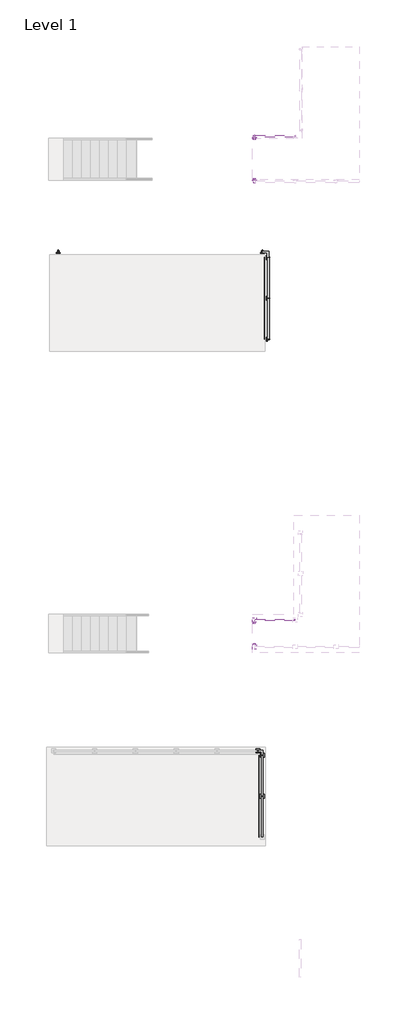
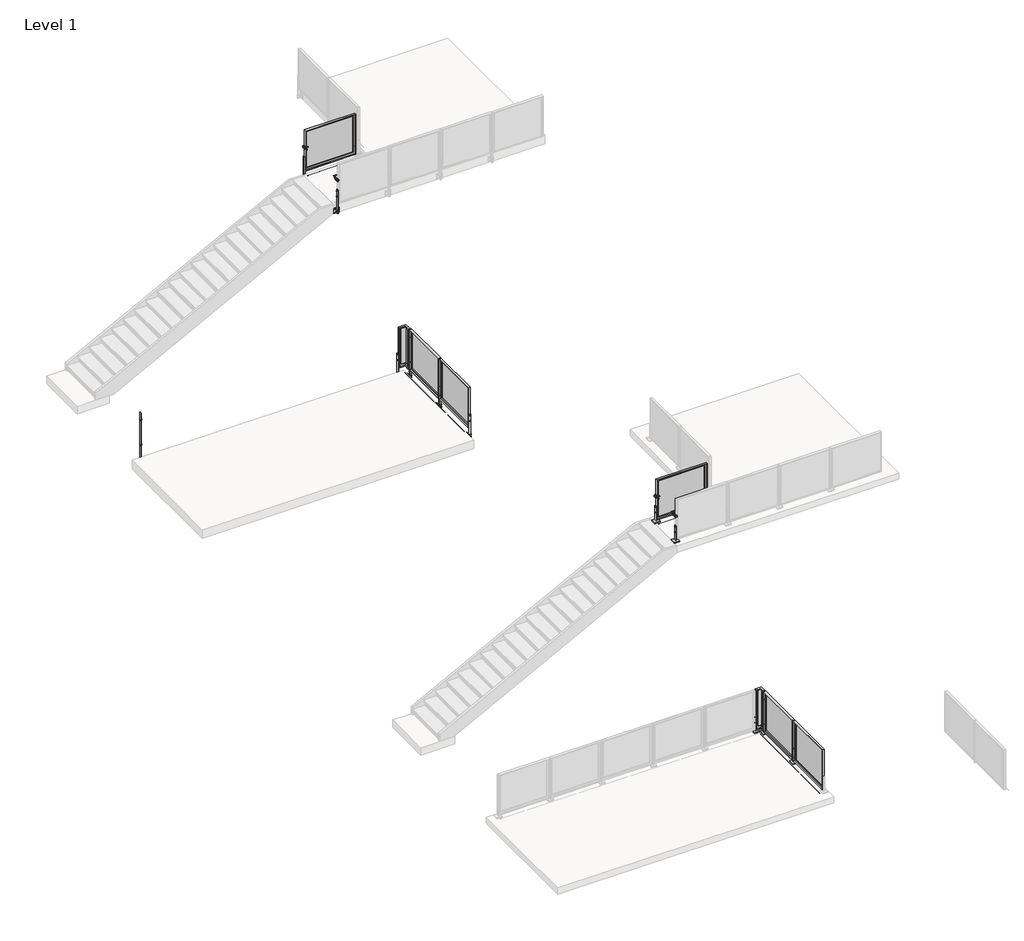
# One storey, part 5 of 37: 12 proxies, 6 railings.
"""IFC4 building model written with IfcOpenShell, lengths in millimetres."""

from ifc_helpers import new_model, si_unit, point, frame, frame_2d, origin, origin_with_axes, place, context, project, spatial, polyline, circle_curve, trimmed, segment, composite_curve, outline, extrude, faceted_brep, transform, mapped, element, save
from ifc_brep_helpers import plane_surface, cylinder_surface, advanced_brep
from components import baluster_end_post_viva_frame_top_mount_efd1a991, baluster_end_post_viva_frame_top_mount_8495f7c5, baluster_end_post_viva_frame_top_mount_welded_fascia_mount_f3869cb3, baluster_end_post_viva_frame_top_mount_welded_fascia_mount_7cfda481, baluster_end_post_viva_frame_top_mount_stairs_2918d103, baluster_end_post_viva_frame_top_mount_stairs_welded_fascia_58373508, baluster_corner_panel_viva_frame_inside_standard_051fbde0, baluster_corner_panel_viva_frame_inside_standard_6796b24e

model = new_model("IFC4")

# Units and contexts
model_context = context("Model", 3, world=origin())
ifc_project = project(units=[si_unit("LENGTHUNIT", "METRE", prefix="MILLI")], contexts=[model_context])

# Site, building, storey
site = spatial("IfcSite", under=ifc_project)
building = spatial("IfcBuilding", under=site)
storey = spatial("IfcBuildingStorey", under=building, Name="Level 1", Elevation=0.0)

# Proxies
placement = place(None, origin())
baluster_end_post_viva_frame_top_mount_shape = baluster_end_post_viva_frame_top_mount_efd1a991(model_context)
element("IfcBuildingElementProxy", 1, Name="Baluster-End-Post-VIVA-FRAME-Top Mount : ANCHORED TO CONCRETE_TOP MOUNT FOLD_STRAIGHT", ObjectType="Baluster-End-Post-VIVA-FRAME-Top Mount : ANCHORED TO CONCRETE_TOP MOUNT FOLD_STRAIGHT", at=placement, inside=storey, context=model_context, shape_type="MappedRepresentation", body=[
    mapped(baluster_end_post_viva_frame_top_mount_shape, transform((-32907.4137821, -21750.6777859, -0.508), x_axis=(-1.0, 0.0, 0.0), y_axis=(0.0, -1.0, 0.0), z_axis=(0.0, 0.0, 1.0))),
])
element("IfcBuildingElementProxy", 2, Name="Baluster-End-Post-VIVA-FRAME-Top Mount : ANCHORED TO CONCRETE_TOP MOUNT FOLD_STRAIGHT", ObjectType="Baluster-End-Post-VIVA-FRAME-Top Mount : ANCHORED TO CONCRETE_TOP MOUNT FOLD_STRAIGHT", at=placement, inside=storey, context=model_context, shape_type="MappedRepresentation", body=[
    mapped(baluster_end_post_viva_frame_top_mount_shape, transform((-33016.8813244, -17681.7668664, 3047.492), x_axis=(-1.0, 0.0, 0.0), y_axis=(0.0, -1.0, 0.0), z_axis=(0.0, 0.0, 1.0))),
])
baluster_end_post_viva_frame_top_mount_2_shape = baluster_end_post_viva_frame_top_mount_8495f7c5(model_context)
element("IfcBuildingElementProxy", 3, Name="Baluster-End-Post-VIVA-FRAME-Top Mount : ANCHORED TO CONCRETE_TOP MOUNT FOLD_STRAIGHT", ObjectType="Baluster-End-Post-VIVA-FRAME-Top Mount : ANCHORED TO CONCRETE_TOP MOUNT FOLD_STRAIGHT", at=placement, inside=storey, context=model_context, shape_type="MappedRepresentation", body=[
    mapped(baluster_end_post_viva_frame_top_mount_2_shape, transform((-32869.9472593, -21788.2049932, -0.508), x_axis=(0.0, 1.0, 0.0), y_axis=(-1.0, 0.0, 0.0), z_axis=(0.0, 0.0, 1.0))),
])
baluster_end_post_viva_frame_top_mount_welded_fascia_mount_shape = baluster_end_post_viva_frame_top_mount_welded_fascia_mount_f3869cb3(model_context)
element("IfcBuildingElementProxy", 4, Name="Baluster-End-Post-VIVA-FRAME-Top Mount : WELDED Fascia MOUNT FOLD_STRAIGHT", ObjectType="Baluster-End-Post-VIVA-FRAME-Top Mount : WELDED Fascia MOUNT FOLD_STRAIGHT", at=placement, inside=storey, context=model_context, shape_type="MappedRepresentation", body=[
    mapped(baluster_end_post_viva_frame_top_mount_welded_fascia_mount_shape, transform((-32705.8487034, -8860.5967002, -0.508), x_axis=(0.0, 1.0, 0.0), y_axis=(-1.0, 0.0, 0.0), z_axis=(0.0, 0.0, 1.0))),
])
element("IfcBuildingElementProxy", 5, Name="Baluster-End-Post-VIVA-FRAME-Top Mount : WELDED Fascia MOUNT FOLD_STRAIGHT", ObjectType="Baluster-End-Post-VIVA-FRAME-Top Mount : WELDED Fascia MOUNT FOLD_STRAIGHT", at=placement, inside=storey, context=model_context, shape_type="MappedRepresentation", body=[
    mapped(baluster_end_post_viva_frame_top_mount_welded_fascia_mount_shape, transform((-32770.1701703, -6257.9599803, -0.508), x_axis=(-1.0, 0.0, 0.0), y_axis=(0.0, -1.0, 0.0), z_axis=(0.0, 0.0, 1.0))),
])
element("IfcBuildingElementProxy", 6, Name="Baluster-End-Post-VIVA-FRAME-Top Mount : WELDED Fascia MOUNT FOLD_STRAIGHT", ObjectType="Baluster-End-Post-VIVA-FRAME-Top Mount : WELDED Fascia MOUNT FOLD_STRAIGHT", at=placement, inside=storey, context=model_context, shape_type="MappedRepresentation", body=[
    mapped(baluster_end_post_viva_frame_top_mount_welded_fascia_mount_shape, transform((-33016.1434339, -3841.0034112, 3047.492), x_axis=(1.0, 0.0, 0.0), y_axis=(0.0, 1.0, 0.0), z_axis=(0.0, 0.0, 1.0))),
])
baluster_end_post_viva_frame_top_mount_welded_fascia_mount_2_shape = baluster_end_post_viva_frame_top_mount_welded_fascia_mount_7cfda481(model_context)
element("IfcBuildingElementProxy", 7, Name="Baluster-End-Post-VIVA-FRAME-Top Mount : WELDED Fascia MOUNT FOLD_STRAIGHT", ObjectType="Baluster-End-Post-VIVA-FRAME-Top Mount : WELDED Fascia MOUNT FOLD_STRAIGHT", at=placement, inside=storey, context=model_context, shape_type="MappedRepresentation", body=[
    mapped(baluster_end_post_viva_frame_top_mount_welded_fascia_mount_2_shape, transform((-32705.8487034, -6320.5967002, -0.508), x_axis=(0.0, 1.0, 0.0), y_axis=(-1.0, 0.0, 0.0), z_axis=(0.0, 0.0, 1.0))),
])
element("IfcBuildingElementProxy", 8, Name="Baluster-End-Post-VIVA-FRAME-Top Mount : WELDED Fascia MOUNT FOLD_STRAIGHT", ObjectType="Baluster-End-Post-VIVA-FRAME-Top Mount : WELDED Fascia MOUNT FOLD_STRAIGHT", at=placement, inside=storey, context=model_context, shape_type="MappedRepresentation", body=[
    mapped(baluster_end_post_viva_frame_top_mount_welded_fascia_mount_2_shape, transform((-39120.1701703, -6257.9599803, -0.508), x_axis=(-1.0, 0.0, 0.0), y_axis=(0.0, -1.0, 0.0), z_axis=(0.0, 0.0, 1.0))),
])
baluster_end_post_viva_frame_top_mount_stairs_shape = baluster_end_post_viva_frame_top_mount_stairs_2918d103(model_context)
element("IfcBuildingElementProxy", 9, Name="Baluster-End-Post-VIVA-FRAME-Top Mount Stairs : ANCHORED TO CONCRETE_TOP MOUNT FRAME_STAIR", ObjectType="Baluster-End-Post-VIVA-FRAME-Top Mount Stairs : ANCHORED TO CONCRETE_TOP MOUNT FRAME_STAIR", at=placement, inside=storey, context=model_context, shape_type="MappedRepresentation", body=[
    mapped(baluster_end_post_viva_frame_top_mount_stairs_shape, transform((-33016.8813244, -18322.9554387, 3784.092), x_axis=(1.0, 0.0, 0.0), y_axis=(0.0, 1.0, 0.0), z_axis=(0.0, 0.0, 1.0))),
])
element("IfcBuildingElementProxy", 10, Name="Baluster-End-Post-VIVA-FRAME-Top Mount Stairs : ANCHORED TO CONCRETE_TOP MOUNT FRAME_STAIR", ObjectType="Baluster-End-Post-VIVA-FRAME-Top Mount Stairs : ANCHORED TO CONCRETE_TOP MOUNT FRAME_STAIR", at=placement, inside=storey, context=model_context, shape_type="MappedRepresentation", body=[
    mapped(baluster_end_post_viva_frame_top_mount_stairs_shape, transform((-33016.8813244, -17681.7554387, 3784.092), x_axis=(-1.0, 0.0, 0.0), y_axis=(0.0, -1.0, 0.0), z_axis=(0.0, 0.0, 1.0))),
])
baluster_end_post_viva_frame_top_mount_stairs_welded_fascia_shape = baluster_end_post_viva_frame_top_mount_stairs_welded_fascia_58373508(model_context)
element("IfcBuildingElementProxy", 11, Name="Baluster-End-Post-VIVA-FRAME-Top Mount Stairs : WELDED Fascia MOUNT FRAME_STAIR", ObjectType="Baluster-End-Post-VIVA-FRAME-Top Mount Stairs : WELDED Fascia MOUNT FRAME_STAIR", at=placement, inside=storey, context=model_context, shape_type="MappedRepresentation", body=[
    mapped(baluster_end_post_viva_frame_top_mount_stairs_welded_fascia_shape, transform((-33016.1434339, -3840.9780112, 3784.092), x_axis=(1.0, 0.0, 0.0), y_axis=(0.0, 1.0, 0.0), z_axis=(0.0, 0.0, 1.0))),
])
element("IfcBuildingElementProxy", 12, Name="Baluster-End-Post-VIVA-FRAME-Top Mount Stairs : WELDED Fascia MOUNT FRAME_STAIR", ObjectType="Baluster-End-Post-VIVA-FRAME-Top Mount Stairs : WELDED Fascia MOUNT FRAME_STAIR", at=placement, inside=storey, context=model_context, shape_type="MappedRepresentation", body=[
    mapped(baluster_end_post_viva_frame_top_mount_stairs_welded_fascia_shape, transform((-33016.1434339, -2683.2944112, 3784.092), x_axis=(-1.0, 0.0, 0.0), y_axis=(0.0, -1.0, 0.0), z_axis=(0.0, 0.0, 1.0))),
])

# Railings
baluster_corner_panel_viva_frame_inside_standard_shape = baluster_corner_panel_viva_frame_inside_standard_051fbde0(model_context)
element("IfcRailing", 13, ObjectType="Baluster-Corner-Panel-VIVA-FRAME : Inside_Standard", at=placement, inside=storey, context=model_context, shape_type="MappedRepresentation", body=[
    mapped(baluster_corner_panel_viva_frame_inside_standard_shape, transform((-32570.6414242, -6127.3771803, -25.654), x_axis=(-1.0, 0.0, 0.0), y_axis=(0.0, -1.0, 0.0), z_axis=(0.0, 0.0, 1.0))),
])
baluster_corner_panel_viva_frame_inside_standard_2_shape = baluster_corner_panel_viva_frame_inside_standard_6796b24e(model_context)
element("IfcRailing", 14, ObjectType="Baluster-Corner-Panel-VIVA-FRAME : Inside_Standard", at=placement, inside=storey, context=model_context, shape_type="MappedRepresentation", body=[
    mapped(baluster_corner_panel_viva_frame_inside_standard_2_shape, transform((-32747.1368593, -21627.8673859, -25.654), x_axis=(-1.0, 0.0, 0.0), y_axis=(0.0, -1.0, 0.0), z_axis=(0.0, 0.0, 1.0))),
])
element("IfcRailing", 15, ObjectType="Metal-Panel-VIVA-FRAME-Fascia-Straight", at=placement, inside=storey, context=model_context, shape_type="SolidModel", body=[
    extrude(outline(composite_curve([segment(trimmed(circle_curve(frame_2d((-0.254, -32705.8487034)), 0.254), [point((-0.254, -32706.1027034))], [point((-0.254, -32705.5947034))], False, "CARTESIAN"), True, "CONTINUOUS"), segment(trimmed(circle_curve(frame_2d((-0.254, -32705.8487034)), 0.254), [point((-0.254, -32705.5947034))], [point((-0.254, -32706.1027034))], False, "CARTESIAN"), True, "CONTINUOUS")], self_intersect=False)), frame((0.0, -8860.5967002, 0.0), z_axis=(0.0, 1.0, 0.0), x_axis=(0.0, 0.0, 1.0)), (0.0, 0.0, 1.0), 2540.0),
    extrude(outline(composite_curve([segment(trimmed(circle_curve(frame_2d((-0.254, -32705.8487034)), 0.254), [point((-0.254, -32706.1027034))], [point((-0.254, -32705.5947034))], False, "CARTESIAN"), True, "CONTINUOUS"), segment(trimmed(circle_curve(frame_2d((-0.254, -32705.8487034)), 0.254), [point((-0.254, -32705.5947034))], [point((-0.254, -32706.1027034))], False, "CARTESIAN"), True, "CONTINUOUS")], self_intersect=False)), frame((0.0, -8860.5967002, 0.0), z_axis=(0.0, 1.0, 0.0), x_axis=(0.0, 0.0, 1.0)), (0.0, 0.0, 1.0), 2540.0),
    extrude(outline(polyline([(-32551.3899034, -7631.4231571), (-32551.3899034, -8819.7702432), (-32554.3899034, -8819.7702432), (-32554.3899034, -7631.4231571), (-32551.3899034, -7631.4231571)])), frame((0.0, 0.0, 76.1959569), z_axis=(0.0, 0.0, 1.0), x_axis=(1.0, 0.0, 0.0)), (0.0, 0.0, 1.0), 990.5826861),
    faceted_brep([(-32551.3899034, -7606.0231571, 1092.1786431), (-32551.3899034, -8845.1702432, 1092.1786431), (-32551.3899034, -8845.1702432, 50.7959569), (-32551.3899034, -7606.0231571, 50.7959569), (-32551.3899034, -7631.4231571, 1066.7786431), (-32551.3899034, -7631.4231571, 76.1959569), (-32551.3899034, -8819.7702432, 76.1959569), (-32551.3899034, -8819.7702432, 1066.7786431), (-32554.3899034, -7631.4231571, 76.1959569), (-32554.3899034, -8819.7702432, 76.1959569), (-32554.3899034, -8819.7702432, 1066.7786431), (-32554.3899034, -7631.4231571, 1066.7786431), (-32605.1899034, -7612.0175571, 56.7903569), (-32605.1899034, -8839.1758432, 56.7903569), (-32574.3797034, -8839.1758432, 56.7903569), (-32574.3797034, -7612.0175571, 56.7903569), (-32605.1899034, -8839.1758432, 1086.1842431), (-32574.3797034, -8839.1758432, 1086.1842431), (-32574.3797034, -7612.0175571, 1086.1842431), (-32605.1899034, -7612.0175571, 1086.1842431), (-32605.1899034, -8845.1702432, 50.7959569), (-32605.1899034, -8845.1702432, 1092.1786431), (-32605.1899034, -7606.0231571, 1092.1786431), (-32605.1899034, -7606.0231571, 50.7959569), (-32554.3899034, -7656.8231571, 1041.3786431), (-32554.3899034, -7656.8231571, 101.5959569), (-32554.3899034, -8794.3702432, 101.5959569), (-32554.3899034, -8794.3702432, 1041.3786431), (-32574.3797034, -8794.3702432, 101.5959569), (-32574.3797034, -7656.8231571, 101.5959569), (-32574.3797034, -7656.8231571, 1041.3786431), (-32574.3797034, -8794.3702432, 1041.3786431)], [[[0, 1, 2, 3], [4, 5, 6, 7]], [[5, 8, 9, 6]], [[6, 9, 10, 7]], [[7, 10, 11, 4]], [[4, 11, 8, 5]], [[12, 13, 14, 15]], [[13, 16, 17, 14]], [[15, 18, 19, 12]], [[20, 21, 22, 23], [12, 19, 16, 13]], [[23, 22, 0, 3]], [[23, 3, 2, 20]], [[2, 1, 21, 20]], [[22, 21, 1, 0]], [[11, 10, 9, 8], [24, 25, 26, 27]], [[14, 17, 18, 15], [28, 29, 30, 31]], [[18, 17, 16, 19]], [[27, 31, 30, 24]], [[26, 28, 31, 27]], [[25, 29, 28, 26]], [[24, 30, 29, 25]]]),
    extrude(outline(composite_curve([segment(trimmed(circle_curve(frame_2d((-32556.9649967, -7590.5967002)), 22.225), [point((-32556.9649967, -7568.3717002))], [point((-32556.9649967, -7612.8217002))], False, "CARTESIAN"), True, "CONTINUOUS"), segment(polyline([(-32556.9649967, -7612.8217002), (-32614.8659034, -7612.8217002), (-32614.8659034, -7568.3717002), (-32556.9649967, -7568.3717002)]), True, "CONTINUOUS")], self_intersect=False)), frame((0.0, 0.0, -188.9252), z_axis=(0.0, 0.0, 1.0), x_axis=(1.0, 0.0, 0.0)), (0.0, 0.0, 1.0), 12.7),
    extrude(outline(composite_curve([segment(polyline([(-32614.8659034, -7612.8217002), (-32614.8659034, -7568.3717002), (-32556.9649967, -7568.3717002)]), True, "CONTINUOUS"), segment(trimmed(circle_curve(frame_2d((-32556.9649967, -7590.5967002)), 22.225), [point((-32556.9649967, -7568.3717002))], [point((-32556.9649967, -7612.8217002))], False, "CARTESIAN"), True, "CONTINUOUS"), segment(polyline([(-32556.9649967, -7612.8217002), (-32614.8659034, -7612.8217002)]), True, "CONTINUOUS")], self_intersect=False)), frame((0.0, 0.0, -127.0), z_axis=(0.0, 0.0, 1.0), x_axis=(1.0, 0.0, 0.0)), (0.0, 0.0, 1.0), 12.7),
    extrude(outline(composite_curve([segment(trimmed(circle_curve(frame_2d((-7635.041632, -106.3498)), 4.7752), [point((-7639.816832, -106.3498))], [point((-7630.266432, -106.3498))], False, "CARTESIAN"), True, "CONTINUOUS"), segment(trimmed(circle_curve(frame_2d((-7635.041632, -106.3498)), 4.7752), [point((-7630.266432, -106.3498))], [point((-7639.816832, -106.3498))], False, "CARTESIAN"), True, "CONTINUOUS")], self_intersect=False)), frame((-32624.3909034, 0.0, 0.0), z_axis=(1.0, 0.0, 0.0), x_axis=(0.0, 1.0, 0.0)), (0.0, 0.0, 1.0), 14.3002),
    extrude(outline(composite_curve([segment(trimmed(circle_curve(frame_2d((-7546.1517683, -106.3498)), 4.7752), [point((-7550.9269683, -106.3498))], [point((-7541.3765683, -106.3498))], False, "CARTESIAN"), True, "CONTINUOUS"), segment(trimmed(circle_curve(frame_2d((-7546.1517683, -106.3498)), 4.7752), [point((-7541.3765683, -106.3498))], [point((-7550.9269683, -106.3498))], False, "CARTESIAN"), True, "CONTINUOUS")], self_intersect=False)), frame((-32624.3909034, 0.0, 0.0), z_axis=(1.0, 0.0, 0.0), x_axis=(0.0, 1.0, 0.0)), (0.0, 0.0, 1.0), 14.3002),
    extrude(outline(composite_curve([segment(trimmed(circle_curve(frame_2d((-7546.1517683, -195.2498)), 4.7752), [point((-7550.9269683, -195.2498))], [point((-7541.3765683, -195.2498))], False, "CARTESIAN"), True, "CONTINUOUS"), segment(trimmed(circle_curve(frame_2d((-7546.1517683, -195.2498)), 4.7752), [point((-7541.3765683, -195.2498))], [point((-7550.9269683, -195.2498))], False, "CARTESIAN"), True, "CONTINUOUS")], self_intersect=False)), frame((-32624.3909034, 0.0, 0.0), z_axis=(1.0, 0.0, 0.0), x_axis=(0.0, 1.0, 0.0)), (0.0, 0.0, 1.0), 14.3002),
    extrude(outline(composite_curve([segment(trimmed(circle_curve(frame_2d((-7635.041632, -195.2498)), 4.7752), [point((-7639.816832, -195.2498))], [point((-7630.266432, -195.2498))], False, "CARTESIAN"), True, "CONTINUOUS"), segment(trimmed(circle_curve(frame_2d((-7635.041632, -195.2498)), 4.7752), [point((-7630.266432, -195.2498))], [point((-7639.816832, -195.2498))], False, "CARTESIAN"), True, "CONTINUOUS")], self_intersect=False)), frame((-32624.3909034, 0.0, 0.0), z_axis=(1.0, 0.0, 0.0), x_axis=(0.0, 1.0, 0.0)), (0.0, 0.0, 1.0), 14.3002),
    extrude(outline(polyline([(-32624.3909034, -7654.0947217), (-32633.9159034, -7654.0947217), (-32633.9159034, -7527.0986786), (-32624.3909034, -7527.0986786), (-32624.3909034, -7654.0947217)])), frame((0.0, 0.0, -214.2998), z_axis=(0.0, 0.0, 1.0), x_axis=(1.0, 0.0, 0.0)), (0.0, 0.0, 1.0), 127.0),
    extrude(outline(polyline([(-32614.8659034, -7654.0947217), (-32624.3909034, -7654.0947217), (-32624.3909034, -7527.0986786), (-32614.8659034, -7527.0986786), (-32614.8659034, -7654.0947217)])), frame((0.0, 0.0, -214.2998), z_axis=(0.0, 0.0, 1.0), x_axis=(1.0, 0.0, 0.0)), (0.0, 0.0, 1.0), 127.0),
    advanced_brep(
    [(-32576.7659034, -7564.4093002, 130.1496), (-32576.7659034, -7564.4093002, 139.7), (-32576.7659034, -7564.4093002, 149.2504), (-32576.7659034, -7569.1845002, 130.1496), (-32576.7659034, -7569.1845002, 149.2504), (-32576.7659034, -7569.1845002, 134.9248), (-32576.7659034, -7569.1845002, 144.4752), (-32576.7659034, -7612.0089002, 134.9248), (-32576.7659034, -7612.0089002, 144.4752), (-32576.7659034, -7612.0089002, 130.1496), (-32576.7659034, -7612.0089002, 149.2504), (-32576.7659034, -7616.7841002, 130.1496), (-32576.7659034, -7616.7841002, 149.2504), (-32576.7659034, -7616.7841002, 139.7)],
    [
        (0, 1),
        (1, 2),
        (2, 0, circle_curve(frame((-32576.7659034, -7564.4093002, 139.7), z_axis=(0.0, 1.0, 0.0), x_axis=(0.0, 0.0, 1.0)), 9.5504)),
        (0, 2, circle_curve(frame((-32576.7659034, -7564.4093002, 139.7), z_axis=(0.0, 1.0, 0.0), x_axis=(0.0, 0.0, 1.0)), 9.5504)),
        (3, 0),
        (2, 4),
        (4, 3, circle_curve(frame((-32576.7659034, -7569.1845002, 139.7), z_axis=(0.0, 1.0, 0.0), x_axis=(0.0, 0.0, 1.0)), 9.5504)),
        (3, 4, circle_curve(frame((-32576.7659034, -7569.1845002, 139.7), z_axis=(0.0, 1.0, 0.0), x_axis=(0.0, 0.0, 1.0)), 9.5504)),
        (5, 3),
        (4, 6),
        (6, 5, circle_curve(frame((-32576.7659034, -7569.1845002, 139.7), z_axis=(0.0, 1.0, 0.0), x_axis=(0.0, 0.0, 1.0)), 4.7752)),
        (5, 6, circle_curve(frame((-32576.7659034, -7569.1845002, 139.7), z_axis=(0.0, 1.0, 0.0), x_axis=(0.0, 0.0, 1.0)), 4.7752)),
        (7, 5),
        (6, 8),
        (8, 7, circle_curve(frame((-32576.7659034, -7612.0089002, 139.7), z_axis=(0.0, 1.0, 0.0), x_axis=(0.0, 0.0, 1.0)), 4.7752)),
        (7, 8, circle_curve(frame((-32576.7659034, -7612.0089002, 139.7), z_axis=(0.0, 1.0, 0.0), x_axis=(0.0, 0.0, 1.0)), 4.7752)),
        (9, 7),
        (8, 10),
        (10, 9, circle_curve(frame((-32576.7659034, -7612.0089002, 139.7), z_axis=(0.0, 1.0, 0.0), x_axis=(0.0, 0.0, 1.0)), 9.5504)),
        (9, 10, circle_curve(frame((-32576.7659034, -7612.0089002, 139.7), z_axis=(0.0, 1.0, 0.0), x_axis=(0.0, 0.0, 1.0)), 9.5504)),
        (11, 9),
        (10, 12),
        (12, 11, circle_curve(frame((-32576.7659034, -7616.7841002, 139.7), z_axis=(0.0, 1.0, 0.0), x_axis=(0.0, 0.0, 1.0)), 9.5504)),
        (11, 12, circle_curve(frame((-32576.7659034, -7616.7841002, 139.7), z_axis=(0.0, 1.0, 0.0), x_axis=(0.0, 0.0, 1.0)), 9.5504)),
        (13, 11),
        (12, 13),
    ],
    [
        plane_surface(frame((-32576.7659034, -7564.4093002, 139.7), z_axis=(0.0, 1.0, 0.0), x_axis=(0.0, 0.0, 1.0))),
        cylinder_surface(frame((-32576.7659034, -4172.828943, 139.7), z_axis=(0.0, -1.0, 0.0), x_axis=(0.0, 0.0, 1.0)), 9.5504),
        plane_surface(frame((-32576.7659034, -7569.1845002, 139.7), z_axis=(0.0, -1.0, 0.0), x_axis=(0.0, 0.0, 1.0))),
        cylinder_surface(frame((-32576.7659034, -4172.828943, 139.7), z_axis=(0.0, -1.0, 0.0), x_axis=(0.0, 0.0, 1.0)), 4.7752),
        plane_surface(frame((-32576.7659034, -7612.0089002, 139.7), z_axis=(0.0, 1.0, 0.0), x_axis=(0.0, 0.0, 1.0))),
        plane_surface(frame((-32576.7659034, -7616.7841002, 139.7), z_axis=(0.0, -1.0, 0.0), x_axis=(0.0, 0.0, 1.0))),
    ],
    [
        (0, [[1, 2, 3]]),
        (0, [[-2, -1, 4]]),
        (1, [[5, -3, 6, 7]]),
        (1, [[-6, -4, -5, 8]]),
        (2, [[9, -7, 10, 11]]),
        (2, [[-10, -8, -9, 12]]),
        (3, [[13, -11, 14, 15]]),
        (3, [[-14, -12, -13, 16]]),
        (4, [[17, -15, 18, 19]]),
        (4, [[-18, -16, -17, 20]]),
        (1, [[21, -19, 22, 23]]),
        (1, [[-22, -20, -21, 24]]),
        (5, [[25, -23, 26]]),
        (5, [[-26, -24, -25]]),
    ],
),
    advanced_brep(
    [(-32576.7659034, -7564.4093002, 371.4496), (-32576.7659034, -7564.4093002, 381.0), (-32576.7659034, -7564.4093002, 390.5504), (-32576.7659034, -7569.1845002, 371.4496), (-32576.7659034, -7569.1845002, 390.5504), (-32576.7659034, -7569.1845002, 376.2248), (-32576.7659034, -7569.1845002, 385.7752), (-32576.7659034, -7612.0089002, 376.2248), (-32576.7659034, -7612.0089002, 385.7752), (-32576.7659034, -7612.0089002, 371.4496), (-32576.7659034, -7612.0089002, 390.5504), (-32576.7659034, -7616.7841002, 371.4496), (-32576.7659034, -7616.7841002, 390.5504), (-32576.7659034, -7616.7841002, 381.0)],
    [
        (0, 1),
        (1, 2),
        (2, 0, circle_curve(frame((-32576.7659034, -7564.4093002, 381.0), z_axis=(0.0, 1.0, 0.0), x_axis=(0.0, 0.0, 1.0)), 9.5504)),
        (0, 2, circle_curve(frame((-32576.7659034, -7564.4093002, 381.0), z_axis=(0.0, 1.0, 0.0), x_axis=(0.0, 0.0, 1.0)), 9.5504)),
        (3, 0),
        (2, 4),
        (4, 3, circle_curve(frame((-32576.7659034, -7569.1845002, 381.0), z_axis=(0.0, 1.0, 0.0), x_axis=(0.0, 0.0, 1.0)), 9.5504)),
        (3, 4, circle_curve(frame((-32576.7659034, -7569.1845002, 381.0), z_axis=(0.0, 1.0, 0.0), x_axis=(0.0, 0.0, 1.0)), 9.5504)),
        (5, 3),
        (4, 6),
        (6, 5, circle_curve(frame((-32576.7659034, -7569.1845002, 381.0), z_axis=(0.0, 1.0, 0.0), x_axis=(0.0, 0.0, 1.0)), 4.7752)),
        (5, 6, circle_curve(frame((-32576.7659034, -7569.1845002, 381.0), z_axis=(0.0, 1.0, 0.0), x_axis=(0.0, 0.0, 1.0)), 4.7752)),
        (7, 5),
        (6, 8),
        (8, 7, circle_curve(frame((-32576.7659034, -7612.0089002, 381.0), z_axis=(0.0, 1.0, 0.0), x_axis=(0.0, 0.0, 1.0)), 4.7752)),
        (7, 8, circle_curve(frame((-32576.7659034, -7612.0089002, 381.0), z_axis=(0.0, 1.0, 0.0), x_axis=(0.0, 0.0, 1.0)), 4.7752)),
        (9, 7),
        (8, 10),
        (10, 9, circle_curve(frame((-32576.7659034, -7612.0089002, 381.0), z_axis=(0.0, 1.0, 0.0), x_axis=(0.0, 0.0, 1.0)), 9.5504)),
        (9, 10, circle_curve(frame((-32576.7659034, -7612.0089002, 381.0), z_axis=(0.0, 1.0, 0.0), x_axis=(0.0, 0.0, 1.0)), 9.5504)),
        (11, 9),
        (10, 12),
        (12, 11, circle_curve(frame((-32576.7659034, -7616.7841002, 381.0), z_axis=(0.0, 1.0, 0.0), x_axis=(0.0, 0.0, 1.0)), 9.5504)),
        (11, 12, circle_curve(frame((-32576.7659034, -7616.7841002, 381.0), z_axis=(0.0, 1.0, 0.0), x_axis=(0.0, 0.0, 1.0)), 9.5504)),
        (13, 11),
        (12, 13),
    ],
    [
        plane_surface(frame((-32576.7659034, -7564.4093002, 381.0), z_axis=(0.0, 1.0, 0.0), x_axis=(0.0, 0.0, 1.0))),
        cylinder_surface(frame((-32576.7659034, -4172.828943, 381.0), z_axis=(0.0, -1.0, 0.0), x_axis=(0.0, 0.0, 1.0)), 9.5504),
        plane_surface(frame((-32576.7659034, -7569.1845002, 381.0), z_axis=(0.0, -1.0, 0.0), x_axis=(0.0, 0.0, 1.0))),
        cylinder_surface(frame((-32576.7659034, -4172.828943, 381.0), z_axis=(0.0, -1.0, 0.0), x_axis=(0.0, 0.0, 1.0)), 4.7752),
        plane_surface(frame((-32576.7659034, -7612.0089002, 381.0), z_axis=(0.0, 1.0, 0.0), x_axis=(0.0, 0.0, 1.0))),
        plane_surface(frame((-32576.7659034, -7616.7841002, 381.0), z_axis=(0.0, -1.0, 0.0), x_axis=(0.0, 0.0, 1.0))),
    ],
    [
        (0, [[1, 2, 3]]),
        (0, [[-2, -1, 4]]),
        (1, [[5, -3, 6, 7]]),
        (1, [[-6, -4, -5, 8]]),
        (2, [[9, -7, 10, 11]]),
        (2, [[-10, -8, -9, 12]]),
        (3, [[13, -11, 14, 15]]),
        (3, [[-14, -12, -13, 16]]),
        (4, [[17, -15, 18, 19]]),
        (4, [[-18, -16, -17, 20]]),
        (1, [[21, -19, 22, 23]]),
        (1, [[-22, -20, -21, 24]]),
        (5, [[25, -23, 26]]),
        (5, [[-26, -24, -25]]),
    ],
),
    extrude(outline(polyline([(-32598.9909034, -7582.6571085), (-32554.5409034, -7582.6571085), (-32554.5409034, -7598.5362918), (-32598.9909034, -7598.5362918), (-32598.9909034, -7582.6571085)])), frame((0.0, 0.0, -182.5752), z_axis=(0.0, 0.0, 1.0), x_axis=(1.0, 0.0, 0.0)), (0.0, 0.0, 1.0), 588.9752),
    extrude(outline(polyline([(-32551.3899034, -6361.4231571), (-32551.3899034, -7549.7702432), (-32554.3899034, -7549.7702432), (-32554.3899034, -6361.4231571), (-32551.3899034, -6361.4231571)])), frame((0.0, 0.0, 76.1959569), z_axis=(0.0, 0.0, 1.0), x_axis=(1.0, 0.0, 0.0)), (0.0, 0.0, 1.0), 990.5826861),
    faceted_brep([(-32551.3899034, -6336.0231571, 1092.1786431), (-32551.3899034, -7575.1702432, 1092.1786431), (-32551.3899034, -7575.1702432, 50.7959569), (-32551.3899034, -6336.0231571, 50.7959569), (-32551.3899034, -6361.4231571, 1066.7786431), (-32551.3899034, -6361.4231571, 76.1959569), (-32551.3899034, -7549.7702432, 76.1959569), (-32551.3899034, -7549.7702432, 1066.7786431), (-32554.3899034, -6361.4231571, 76.1959569), (-32554.3899034, -7549.7702432, 76.1959569), (-32554.3899034, -7549.7702432, 1066.7786431), (-32554.3899034, -6361.4231571, 1066.7786431), (-32605.1899034, -6342.0175571, 56.7903569), (-32605.1899034, -7569.1758432, 56.7903569), (-32574.3797034, -7569.1758432, 56.7903569), (-32574.3797034, -6342.0175571, 56.7903569), (-32605.1899034, -7569.1758432, 1086.1842431), (-32574.3797034, -7569.1758432, 1086.1842431), (-32574.3797034, -6342.0175571, 1086.1842431), (-32605.1899034, -6342.0175571, 1086.1842431), (-32605.1899034, -7575.1702432, 50.7959569), (-32605.1899034, -7575.1702432, 1092.1786431), (-32605.1899034, -6336.0231571, 1092.1786431), (-32605.1899034, -6336.0231571, 50.7959569), (-32554.3899034, -6386.8231571, 1041.3786431), (-32554.3899034, -6386.8231571, 101.5959569), (-32554.3899034, -7524.3702432, 101.5959569), (-32554.3899034, -7524.3702432, 1041.3786431), (-32574.3797034, -7524.3702432, 101.5959569), (-32574.3797034, -6386.8231571, 101.5959569), (-32574.3797034, -6386.8231571, 1041.3786431), (-32574.3797034, -7524.3702432, 1041.3786431)], [[[0, 1, 2, 3], [4, 5, 6, 7]], [[5, 8, 9, 6]], [[6, 9, 10, 7]], [[7, 10, 11, 4]], [[4, 11, 8, 5]], [[12, 13, 14, 15]], [[13, 16, 17, 14]], [[15, 18, 19, 12]], [[20, 21, 22, 23], [12, 19, 16, 13]], [[23, 22, 0, 3]], [[23, 3, 2, 20]], [[2, 1, 21, 20]], [[22, 21, 1, 0]], [[11, 10, 9, 8], [24, 25, 26, 27]], [[14, 17, 18, 15], [28, 29, 30, 31]], [[18, 17, 16, 19]], [[27, 31, 30, 24]], [[26, 28, 31, 27]], [[25, 29, 28, 26]], [[24, 30, 29, 25]]]),
])
element("IfcRailing", 16, ObjectType="Metal-Panel-VIVA-FRAME-Fascia-Straight", at=placement, inside=storey, context=model_context, shape_type="SolidModel", body=[
    extrude(outline(composite_curve([segment(trimmed(circle_curve(frame_2d((-2684.7736112, 3047.746)), 0.254), [point((-2685.0276112, 3047.746))], [point((-2684.5196112, 3047.746))], False, "CARTESIAN"), True, "CONTINUOUS"), segment(trimmed(circle_curve(frame_2d((-2684.7736112, 3047.746)), 0.254), [point((-2684.5196112, 3047.746))], [point((-2685.0276112, 3047.746))], False, "CARTESIAN"), True, "CONTINUOUS")], self_intersect=False)), frame((-33015.9500753, 0.0, 0.0), z_axis=(1.0, 0.0, 0.0), x_axis=(0.0, 1.0, 0.0)), (0.0, 0.0, 1.0), 1270.0),
    extrude(outline(composite_curve([segment(trimmed(circle_curve(frame_2d((-2684.7736112, 3047.746)), 0.254), [point((-2685.0276112, 3047.746))], [point((-2684.5196112, 3047.746))], False, "CARTESIAN"), True, "CONTINUOUS"), segment(trimmed(circle_curve(frame_2d((-2684.7736112, 3047.746)), 0.254), [point((-2684.5196112, 3047.746))], [point((-2685.0276112, 3047.746))], False, "CARTESIAN"), True, "CONTINUOUS")], self_intersect=False)), frame((-33015.9500753, 0.0, 0.0), z_axis=(1.0, 0.0, 0.0), x_axis=(0.0, 1.0, 0.0)), (0.0, 0.0, 1.0), 1270.0),
    extrude(outline(polyline([(-32975.1236183, -2530.3148112), (-31786.7765322, -2530.3148112), (-31786.7765322, -2533.3148112), (-32975.1236183, -2533.3148112), (-32975.1236183, -2530.3148112)])), frame((0.0, 0.0, 3124.1959569), z_axis=(0.0, 0.0, 1.0), x_axis=(1.0, 0.0, 0.0)), (0.0, 0.0, 1.0), 990.5826861),
    faceted_brep([(-33000.5236183, -2530.3148112, 4140.1786431), (-31761.3765322, -2530.3148112, 4140.1786431), (-31761.3765322, -2530.3148112, 3098.7959569), (-33000.5236183, -2530.3148112, 3098.7959569), (-32975.1236183, -2530.3148112, 4114.7786431), (-32975.1236183, -2530.3148112, 3124.1959569), (-31786.7765322, -2530.3148112, 3124.1959569), (-31786.7765322, -2530.3148112, 4114.7786431), (-32975.1236183, -2533.3148112, 3124.1959569), (-31786.7765322, -2533.3148112, 3124.1959569), (-31786.7765322, -2533.3148112, 4114.7786431), (-32975.1236183, -2533.3148112, 4114.7786431), (-32994.5292183, -2584.1148112, 3104.7903569), (-31767.3709322, -2584.1148112, 3104.7903569), (-31767.3709322, -2553.3046112, 3104.7903569), (-32994.5292183, -2553.3046112, 3104.7903569), (-31767.3709322, -2584.1148112, 4134.1842431), (-31767.3709322, -2553.3046112, 4134.1842431), (-32994.5292183, -2553.3046112, 4134.1842431), (-32994.5292183, -2584.1148112, 4134.1842431), (-31761.3765322, -2584.1148112, 3098.7959569), (-31761.3765322, -2584.1148112, 4140.1786431), (-33000.5236183, -2584.1148112, 4140.1786431), (-33000.5236183, -2584.1148112, 3098.7959569), (-32949.7236183, -2533.3148112, 4089.3786431), (-32949.7236183, -2533.3148112, 3149.5959569), (-31812.1765322, -2533.3148112, 3149.5959569), (-31812.1765322, -2533.3148112, 4089.3786431), (-31812.1765322, -2553.3046112, 3149.5959569), (-32949.7236183, -2553.3046112, 3149.5959569), (-32949.7236183, -2553.3046112, 4089.3786431), (-31812.1765322, -2553.3046112, 4089.3786431)], [[[0, 1, 2, 3], [4, 5, 6, 7]], [[5, 8, 9, 6]], [[6, 9, 10, 7]], [[7, 10, 11, 4]], [[4, 11, 8, 5]], [[12, 13, 14, 15]], [[13, 16, 17, 14]], [[15, 18, 19, 12]], [[20, 21, 22, 23], [12, 19, 16, 13]], [[23, 22, 0, 3]], [[23, 3, 2, 20]], [[2, 1, 21, 20]], [[22, 21, 1, 0]], [[11, 10, 9, 8], [24, 25, 26, 27]], [[14, 17, 18, 15], [28, 29, 30, 31]], [[18, 17, 16, 19]], [[27, 31, 30, 24]], [[26, 28, 31, 27]], [[25, 29, 28, 26]], [[24, 30, 29, 25]]]),
])
element("IfcRailing", 17, ObjectType="Metal-Panel-VIVA-FRAME-Slab-Top-Anchor-Straight", at=placement, inside=storey, context=model_context, shape_type="SolidModel", body=[
    extrude(outline(composite_curve([segment(trimmed(circle_curve(frame_2d((-0.254, -32869.9472593)), 0.254), [point((-0.254, -32870.2012593))], [point((-0.254, -32869.6932593))], False, "CARTESIAN"), True, "CONTINUOUS"), segment(trimmed(circle_curve(frame_2d((-0.254, -32869.9472593)), 0.254), [point((-0.254, -32869.6932593))], [point((-0.254, -32870.2012593))], False, "CARTESIAN"), True, "CONTINUOUS")], self_intersect=False)), frame((0.0, -24328.2049932, 0.0), z_axis=(0.0, 1.0, 0.0), x_axis=(0.0, 0.0, 1.0)), (0.0, 0.0, 1.0), 2540.0),
    extrude(outline(composite_curve([segment(trimmed(circle_curve(frame_2d((-0.254, -32869.9472593)), 0.254), [point((-0.254, -32870.2012593))], [point((-0.254, -32869.6932593))], False, "CARTESIAN"), True, "CONTINUOUS"), segment(trimmed(circle_curve(frame_2d((-0.254, -32869.9472593)), 0.254), [point((-0.254, -32869.6932593))], [point((-0.254, -32870.2012593))], False, "CARTESIAN"), True, "CONTINUOUS")], self_intersect=False)), frame((0.0, -24328.2049932, 0.0), z_axis=(0.0, 1.0, 0.0), x_axis=(0.0, 0.0, 1.0)), (0.0, 0.0, 1.0), 2540.0),
    extrude(outline(polyline([(-32747.1368593, -23099.0314502), (-32747.1368593, -24287.3785363), (-32750.1368593, -24287.3785363), (-32750.1368593, -23099.0314502), (-32747.1368593, -23099.0314502)])), frame((0.0, 0.0, 76.1959569), z_axis=(0.0, 0.0, 1.0), x_axis=(1.0, 0.0, 0.0)), (0.0, 0.0, 1.0), 990.5826861),
    faceted_brep([(-32747.1368593, -23073.6314502, 1092.1786431), (-32747.1368593, -24312.7785363, 1092.1786431), (-32747.1368593, -24312.7785363, 50.7959569), (-32747.1368593, -23073.6314502, 50.7959569), (-32747.1368593, -23099.0314502, 1066.7786431), (-32747.1368593, -23099.0314502, 76.1959569), (-32747.1368593, -24287.3785363, 76.1959569), (-32747.1368593, -24287.3785363, 1066.7786431), (-32750.1368593, -23099.0314502, 76.1959569), (-32750.1368593, -24287.3785363, 76.1959569), (-32750.1368593, -24287.3785363, 1066.7786431), (-32750.1368593, -23099.0314502, 1066.7786431), (-32800.9368593, -23079.6258502, 56.7903569), (-32800.9368593, -24306.7841363, 56.7903569), (-32770.1266593, -24306.7841363, 56.7903569), (-32770.1266593, -23079.6258502, 56.7903569), (-32800.9368593, -24306.7841363, 1086.1842431), (-32770.1266593, -24306.7841363, 1086.1842431), (-32770.1266593, -23079.6258502, 1086.1842431), (-32800.9368593, -23079.6258502, 1086.1842431), (-32800.9368593, -24312.7785363, 50.7959569), (-32800.9368593, -24312.7785363, 1092.1786431), (-32800.9368593, -23073.6314502, 1092.1786431), (-32800.9368593, -23073.6314502, 50.7959569), (-32750.1368593, -23124.4314502, 1041.3786431), (-32750.1368593, -23124.4314502, 101.5959569), (-32750.1368593, -24261.9785363, 101.5959569), (-32750.1368593, -24261.9785363, 1041.3786431), (-32770.1266593, -24261.9785363, 101.5959569), (-32770.1266593, -23124.4314502, 101.5959569), (-32770.1266593, -23124.4314502, 1041.3786431), (-32770.1266593, -24261.9785363, 1041.3786431)], [[[0, 1, 2, 3], [4, 5, 6, 7]], [[5, 8, 9, 6]], [[6, 9, 10, 7]], [[7, 10, 11, 4]], [[4, 11, 8, 5]], [[12, 13, 14, 15]], [[13, 16, 17, 14]], [[15, 18, 19, 12]], [[20, 21, 22, 23], [12, 19, 16, 13]], [[23, 22, 0, 3]], [[23, 3, 2, 20]], [[2, 1, 21, 20]], [[22, 21, 1, 0]], [[11, 10, 9, 8], [24, 25, 26, 27]], [[14, 17, 18, 15], [28, 29, 30, 31]], [[18, 17, 16, 19]], [[27, 31, 30, 24]], [[26, 28, 31, 27]], [[25, 29, 28, 26]], [[24, 30, 29, 25]]]),
    advanced_brep(
    [(-32774.0368593, -23032.0175932, 130.1496), (-32774.0368593, -23032.0175932, 139.7), (-32774.0368593, -23032.0175932, 149.2504), (-32774.0368593, -23036.7927932, 130.1496), (-32774.0368593, -23036.7927932, 149.2504), (-32774.0368593, -23036.7927932, 134.9248), (-32774.0368593, -23036.7927932, 144.4752), (-32774.0368593, -23079.6171932, 134.9248), (-32774.0368593, -23079.6171932, 144.4752), (-32774.0368593, -23079.6171932, 130.1496), (-32774.0368593, -23079.6171932, 149.2504), (-32774.0368593, -23084.3923932, 130.1496), (-32774.0368593, -23084.3923932, 149.2504), (-32774.0368593, -23084.3923932, 139.7)],
    [
        (0, 1),
        (1, 2),
        (2, 0, circle_curve(frame((-32774.0368593, -23032.0175932, 139.7), z_axis=(0.0, 1.0, 0.0), x_axis=(0.0, 0.0, 1.0)), 9.5504)),
        (0, 2, circle_curve(frame((-32774.0368593, -23032.0175932, 139.7), z_axis=(0.0, 1.0, 0.0), x_axis=(0.0, 0.0, 1.0)), 9.5504)),
        (3, 0),
        (2, 4),
        (4, 3, circle_curve(frame((-32774.0368593, -23036.7927932, 139.7), z_axis=(0.0, 1.0, 0.0), x_axis=(0.0, 0.0, 1.0)), 9.5504)),
        (3, 4, circle_curve(frame((-32774.0368593, -23036.7927932, 139.7), z_axis=(0.0, 1.0, 0.0), x_axis=(0.0, 0.0, 1.0)), 9.5504)),
        (5, 3),
        (4, 6),
        (6, 5, circle_curve(frame((-32774.0368593, -23036.7927932, 139.7), z_axis=(0.0, 1.0, 0.0), x_axis=(0.0, 0.0, 1.0)), 4.7752)),
        (5, 6, circle_curve(frame((-32774.0368593, -23036.7927932, 139.7), z_axis=(0.0, 1.0, 0.0), x_axis=(0.0, 0.0, 1.0)), 4.7752)),
        (7, 5),
        (6, 8),
        (8, 7, circle_curve(frame((-32774.0368593, -23079.6171932, 139.7), z_axis=(0.0, 1.0, 0.0), x_axis=(0.0, 0.0, 1.0)), 4.7752)),
        (7, 8, circle_curve(frame((-32774.0368593, -23079.6171932, 139.7), z_axis=(0.0, 1.0, 0.0), x_axis=(0.0, 0.0, 1.0)), 4.7752)),
        (9, 7),
        (8, 10),
        (10, 9, circle_curve(frame((-32774.0368593, -23079.6171932, 139.7), z_axis=(0.0, 1.0, 0.0), x_axis=(0.0, 0.0, 1.0)), 9.5504)),
        (9, 10, circle_curve(frame((-32774.0368593, -23079.6171932, 139.7), z_axis=(0.0, 1.0, 0.0), x_axis=(0.0, 0.0, 1.0)), 9.5504)),
        (11, 9),
        (10, 12),
        (12, 11, circle_curve(frame((-32774.0368593, -23084.3923932, 139.7), z_axis=(0.0, 1.0, 0.0), x_axis=(0.0, 0.0, 1.0)), 9.5504)),
        (11, 12, circle_curve(frame((-32774.0368593, -23084.3923932, 139.7), z_axis=(0.0, 1.0, 0.0), x_axis=(0.0, 0.0, 1.0)), 9.5504)),
        (13, 11),
        (12, 13),
    ],
    [
        plane_surface(frame((-32774.0368593, -23032.0175932, 139.7), z_axis=(0.0, 1.0, 0.0), x_axis=(0.0, 0.0, 1.0))),
        cylinder_surface(frame((-32774.0368593, -19640.4372361, 139.7), z_axis=(0.0, -1.0, 0.0), x_axis=(0.0, 0.0, 1.0)), 9.5504),
        plane_surface(frame((-32774.0368593, -23036.7927932, 139.7), z_axis=(0.0, -1.0, 0.0), x_axis=(0.0, 0.0, 1.0))),
        cylinder_surface(frame((-32774.0368593, -19640.4372361, 139.7), z_axis=(0.0, -1.0, 0.0), x_axis=(0.0, 0.0, 1.0)), 4.7752),
        plane_surface(frame((-32774.0368593, -23079.6171932, 139.7), z_axis=(0.0, 1.0, 0.0), x_axis=(0.0, 0.0, 1.0))),
        plane_surface(frame((-32774.0368593, -23084.3923932, 139.7), z_axis=(0.0, -1.0, 0.0), x_axis=(0.0, 0.0, 1.0))),
    ],
    [
        (0, [[1, 2, 3]]),
        (0, [[-2, -1, 4]]),
        (1, [[5, -3, 6, 7]]),
        (1, [[-6, -4, -5, 8]]),
        (2, [[9, -7, 10, 11]]),
        (2, [[-10, -8, -9, 12]]),
        (3, [[13, -11, 14, 15]]),
        (3, [[-14, -12, -13, 16]]),
        (4, [[17, -15, 18, 19]]),
        (4, [[-18, -16, -17, 20]]),
        (1, [[21, -19, 22, 23]]),
        (1, [[-22, -20, -21, 24]]),
        (5, [[25, -23, 26]]),
        (5, [[-26, -24, -25]]),
    ],
),
    advanced_brep(
    [(-32774.0368593, -23032.0175932, 371.4496), (-32774.0368593, -23032.0175932, 381.0), (-32774.0368593, -23032.0175932, 390.5504), (-32774.0368593, -23036.7927932, 371.4496), (-32774.0368593, -23036.7927932, 390.5504), (-32774.0368593, -23036.7927932, 376.2248), (-32774.0368593, -23036.7927932, 385.7752), (-32774.0368593, -23079.6171932, 376.2248), (-32774.0368593, -23079.6171932, 385.7752), (-32774.0368593, -23079.6171932, 371.4496), (-32774.0368593, -23079.6171932, 390.5504), (-32774.0368593, -23084.3923932, 371.4496), (-32774.0368593, -23084.3923932, 390.5504), (-32774.0368593, -23084.3923932, 381.0)],
    [
        (0, 1),
        (1, 2),
        (2, 0, circle_curve(frame((-32774.0368593, -23032.0175932, 381.0), z_axis=(0.0, 1.0, 0.0), x_axis=(0.0, 0.0, 1.0)), 9.5504)),
        (0, 2, circle_curve(frame((-32774.0368593, -23032.0175932, 381.0), z_axis=(0.0, 1.0, 0.0), x_axis=(0.0, 0.0, 1.0)), 9.5504)),
        (3, 0),
        (2, 4),
        (4, 3, circle_curve(frame((-32774.0368593, -23036.7927932, 381.0), z_axis=(0.0, 1.0, 0.0), x_axis=(0.0, 0.0, 1.0)), 9.5504)),
        (3, 4, circle_curve(frame((-32774.0368593, -23036.7927932, 381.0), z_axis=(0.0, 1.0, 0.0), x_axis=(0.0, 0.0, 1.0)), 9.5504)),
        (5, 3),
        (4, 6),
        (6, 5, circle_curve(frame((-32774.0368593, -23036.7927932, 381.0), z_axis=(0.0, 1.0, 0.0), x_axis=(0.0, 0.0, 1.0)), 4.7752)),
        (5, 6, circle_curve(frame((-32774.0368593, -23036.7927932, 381.0), z_axis=(0.0, 1.0, 0.0), x_axis=(0.0, 0.0, 1.0)), 4.7752)),
        (7, 5),
        (6, 8),
        (8, 7, circle_curve(frame((-32774.0368593, -23079.6171932, 381.0), z_axis=(0.0, 1.0, 0.0), x_axis=(0.0, 0.0, 1.0)), 4.7752)),
        (7, 8, circle_curve(frame((-32774.0368593, -23079.6171932, 381.0), z_axis=(0.0, 1.0, 0.0), x_axis=(0.0, 0.0, 1.0)), 4.7752)),
        (9, 7),
        (8, 10),
        (10, 9, circle_curve(frame((-32774.0368593, -23079.6171932, 381.0), z_axis=(0.0, 1.0, 0.0), x_axis=(0.0, 0.0, 1.0)), 9.5504)),
        (9, 10, circle_curve(frame((-32774.0368593, -23079.6171932, 381.0), z_axis=(0.0, 1.0, 0.0), x_axis=(0.0, 0.0, 1.0)), 9.5504)),
        (11, 9),
        (10, 12),
        (12, 11, circle_curve(frame((-32774.0368593, -23084.3923932, 381.0), z_axis=(0.0, 1.0, 0.0), x_axis=(0.0, 0.0, 1.0)), 9.5504)),
        (11, 12, circle_curve(frame((-32774.0368593, -23084.3923932, 381.0), z_axis=(0.0, 1.0, 0.0), x_axis=(0.0, 0.0, 1.0)), 9.5504)),
        (13, 11),
        (12, 13),
    ],
    [
        plane_surface(frame((-32774.0368593, -23032.0175932, 381.0), z_axis=(0.0, 1.0, 0.0), x_axis=(0.0, 0.0, 1.0))),
        cylinder_surface(frame((-32774.0368593, -19640.4372361, 381.0), z_axis=(0.0, -1.0, 0.0), x_axis=(0.0, 0.0, 1.0)), 9.5504),
        plane_surface(frame((-32774.0368593, -23036.7927932, 381.0), z_axis=(0.0, -1.0, 0.0), x_axis=(0.0, 0.0, 1.0))),
        cylinder_surface(frame((-32774.0368593, -19640.4372361, 381.0), z_axis=(0.0, -1.0, 0.0), x_axis=(0.0, 0.0, 1.0)), 4.7752),
        plane_surface(frame((-32774.0368593, -23079.6171932, 381.0), z_axis=(0.0, 1.0, 0.0), x_axis=(0.0, 0.0, 1.0))),
        plane_surface(frame((-32774.0368593, -23084.3923932, 381.0), z_axis=(0.0, -1.0, 0.0), x_axis=(0.0, 0.0, 1.0))),
    ],
    [
        (0, [[1, 2, 3]]),
        (0, [[-2, -1, 4]]),
        (1, [[5, -3, 6, 7]]),
        (1, [[-6, -4, -5, 8]]),
        (2, [[9, -7, 10, 11]]),
        (2, [[-10, -8, -9, 12]]),
        (3, [[13, -11, 14, 15]]),
        (3, [[-14, -12, -13, 16]]),
        (4, [[17, -15, 18, 19]]),
        (4, [[-18, -16, -17, 20]]),
        (1, [[21, -19, 22, 23]]),
        (1, [[-22, -20, -21, 24]]),
        (5, [[25, -23, 26]]),
        (5, [[-26, -24, -25]]),
    ],
),
    extrude(outline(polyline([(-32839.9244593, -22992.3173932), (-32708.1492593, -22992.3173932), (-32708.1492593, -23124.0925932), (-32839.9244593, -23124.0925932), (-32839.9244593, -22992.3173932)])), origin_with_axes(), (0.0, 0.0, 1.0), 25.4),
    extrude(outline(polyline([(-32796.2618593, -23050.2654016), (-32751.8118593, -23050.2654016), (-32751.8118593, -23066.1445849), (-32796.2618593, -23066.1445849), (-32796.2618593, -23050.2654016)])), origin_with_axes(), (0.0, 0.0, 1.0), 406.4),
    extrude(outline(polyline([(-32747.1368593, -21829.0314502), (-32747.1368593, -23017.3785363), (-32750.1368593, -23017.3785363), (-32750.1368593, -21829.0314502), (-32747.1368593, -21829.0314502)])), frame((0.0, 0.0, 76.1959569), z_axis=(0.0, 0.0, 1.0), x_axis=(1.0, 0.0, 0.0)), (0.0, 0.0, 1.0), 990.5826861),
    faceted_brep([(-32747.1368593, -21803.6314502, 1092.1786431), (-32747.1368593, -23042.7785363, 1092.1786431), (-32747.1368593, -23042.7785363, 50.7959569), (-32747.1368593, -21803.6314502, 50.7959569), (-32747.1368593, -21829.0314502, 1066.7786431), (-32747.1368593, -21829.0314502, 76.1959569), (-32747.1368593, -23017.3785363, 76.1959569), (-32747.1368593, -23017.3785363, 1066.7786431), (-32750.1368593, -21829.0314502, 76.1959569), (-32750.1368593, -23017.3785363, 76.1959569), (-32750.1368593, -23017.3785363, 1066.7786431), (-32750.1368593, -21829.0314502, 1066.7786431), (-32800.9368593, -21809.6258502, 56.7903569), (-32800.9368593, -23036.7841363, 56.7903569), (-32770.1266593, -23036.7841363, 56.7903569), (-32770.1266593, -21809.6258502, 56.7903569), (-32800.9368593, -23036.7841363, 1086.1842431), (-32770.1266593, -23036.7841363, 1086.1842431), (-32770.1266593, -21809.6258502, 1086.1842431), (-32800.9368593, -21809.6258502, 1086.1842431), (-32800.9368593, -23042.7785363, 50.7959569), (-32800.9368593, -23042.7785363, 1092.1786431), (-32800.9368593, -21803.6314502, 1092.1786431), (-32800.9368593, -21803.6314502, 50.7959569), (-32750.1368593, -21854.4314502, 1041.3786431), (-32750.1368593, -21854.4314502, 101.5959569), (-32750.1368593, -22991.9785363, 101.5959569), (-32750.1368593, -22991.9785363, 1041.3786431), (-32770.1266593, -22991.9785363, 101.5959569), (-32770.1266593, -21854.4314502, 101.5959569), (-32770.1266593, -21854.4314502, 1041.3786431), (-32770.1266593, -22991.9785363, 1041.3786431)], [[[0, 1, 2, 3], [4, 5, 6, 7]], [[5, 8, 9, 6]], [[6, 9, 10, 7]], [[7, 10, 11, 4]], [[4, 11, 8, 5]], [[12, 13, 14, 15]], [[13, 16, 17, 14]], [[15, 18, 19, 12]], [[20, 21, 22, 23], [12, 19, 16, 13]], [[23, 22, 0, 3]], [[23, 3, 2, 20]], [[2, 1, 21, 20]], [[22, 21, 1, 0]], [[11, 10, 9, 8], [24, 25, 26, 27]], [[14, 17, 18, 15], [28, 29, 30, 31]], [[18, 17, 16, 19]], [[27, 31, 30, 24]], [[26, 28, 31, 27]], [[25, 29, 28, 26]], [[24, 30, 29, 25]]]),
])
element("IfcRailing", 18, ObjectType="Metal-Panel-VIVA-FRAME-Slab-Top-Anchor-Straight", at=placement, inside=storey, context=model_context, shape_type="SolidModel", body=[
    extrude(outline(composite_curve([segment(trimmed(circle_curve(frame_2d((-17681.7668664, 3047.746)), 0.254), [point((-17682.0208664, 3047.746))], [point((-17681.5128664, 3047.746))], False, "CARTESIAN"), True, "CONTINUOUS"), segment(trimmed(circle_curve(frame_2d((-17681.7668664, 3047.746)), 0.254), [point((-17681.5128664, 3047.746))], [point((-17682.0208664, 3047.746))], False, "CARTESIAN"), True, "CONTINUOUS")], self_intersect=False)), frame((-33016.8813244, 0.0, 0.0), z_axis=(1.0, 0.0, 0.0), x_axis=(0.0, 1.0, 0.0)), (0.0, 0.0, 1.0), 1270.0),
    extrude(outline(composite_curve([segment(trimmed(circle_curve(frame_2d((-17681.7668664, 3047.746)), 0.254), [point((-17682.0208664, 3047.746))], [point((-17681.5128664, 3047.746))], False, "CARTESIAN"), True, "CONTINUOUS"), segment(trimmed(circle_curve(frame_2d((-17681.7668664, 3047.746)), 0.254), [point((-17681.5128664, 3047.746))], [point((-17682.0208664, 3047.746))], False, "CARTESIAN"), True, "CONTINUOUS")], self_intersect=False)), frame((-33016.8813244, 0.0, 0.0), z_axis=(1.0, 0.0, 0.0), x_axis=(0.0, 1.0, 0.0)), (0.0, 0.0, 1.0), 1270.0),
    extrude(outline(polyline([(-32976.0548675, -17558.9564664), (-31787.7077814, -17558.9564664), (-31787.7077814, -17561.9564664), (-32976.0548675, -17561.9564664), (-32976.0548675, -17558.9564664)])), frame((0.0, 0.0, 3124.1959569), z_axis=(0.0, 0.0, 1.0), x_axis=(1.0, 0.0, 0.0)), (0.0, 0.0, 1.0), 990.5826861),
    faceted_brep([(-33001.4548675, -17558.9564664, 4140.1786431), (-31762.3077814, -17558.9564664, 4140.1786431), (-31762.3077814, -17558.9564664, 3098.7959569), (-33001.4548675, -17558.9564664, 3098.7959569), (-32976.0548675, -17558.9564664, 4114.7786431), (-32976.0548675, -17558.9564664, 3124.1959569), (-31787.7077814, -17558.9564664, 3124.1959569), (-31787.7077814, -17558.9564664, 4114.7786431), (-32976.0548675, -17561.9564664, 3124.1959569), (-31787.7077814, -17561.9564664, 3124.1959569), (-31787.7077814, -17561.9564664, 4114.7786431), (-32976.0548675, -17561.9564664, 4114.7786431), (-32995.4604675, -17612.7564664, 3104.7903569), (-31768.3021814, -17612.7564664, 3104.7903569), (-31768.3021814, -17581.9462664, 3104.7903569), (-32995.4604675, -17581.9462664, 3104.7903569), (-31768.3021814, -17612.7564664, 4134.1842431), (-31768.3021814, -17581.9462664, 4134.1842431), (-32995.4604675, -17581.9462664, 4134.1842431), (-32995.4604675, -17612.7564664, 4134.1842431), (-31762.3077814, -17612.7564664, 3098.7959569), (-31762.3077814, -17612.7564664, 4140.1786431), (-33001.4548675, -17612.7564664, 4140.1786431), (-33001.4548675, -17612.7564664, 3098.7959569), (-32950.6548675, -17561.9564664, 4089.3786431), (-32950.6548675, -17561.9564664, 3149.5959569), (-31813.1077814, -17561.9564664, 3149.5959569), (-31813.1077814, -17561.9564664, 4089.3786431), (-31813.1077814, -17581.9462664, 3149.5959569), (-32950.6548675, -17581.9462664, 3149.5959569), (-32950.6548675, -17581.9462664, 4089.3786431), (-31813.1077814, -17581.9462664, 4089.3786431)], [[[0, 1, 2, 3], [4, 5, 6, 7]], [[5, 8, 9, 6]], [[6, 9, 10, 7]], [[7, 10, 11, 4]], [[4, 11, 8, 5]], [[12, 13, 14, 15]], [[13, 16, 17, 14]], [[15, 18, 19, 12]], [[20, 21, 22, 23], [12, 19, 16, 13]], [[23, 22, 0, 3]], [[23, 3, 2, 20]], [[2, 1, 21, 20]], [[22, 21, 1, 0]], [[11, 10, 9, 8], [24, 25, 26, 27]], [[14, 17, 18, 15], [28, 29, 30, 31]], [[18, 17, 16, 19]], [[27, 31, 30, 24]], [[26, 28, 31, 27]], [[25, 29, 28, 26]], [[24, 30, 29, 25]]]),
])

save(model, "model.ifc")
